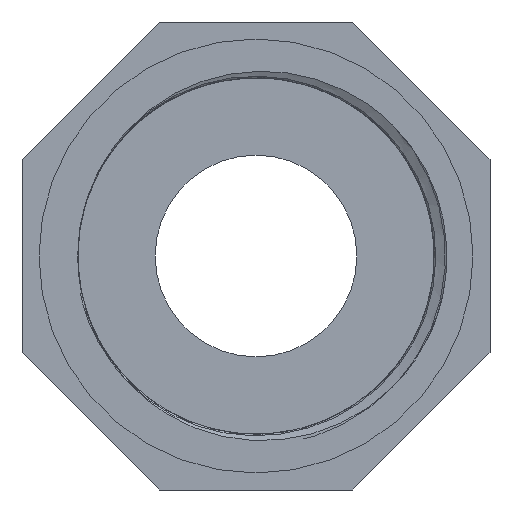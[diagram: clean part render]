
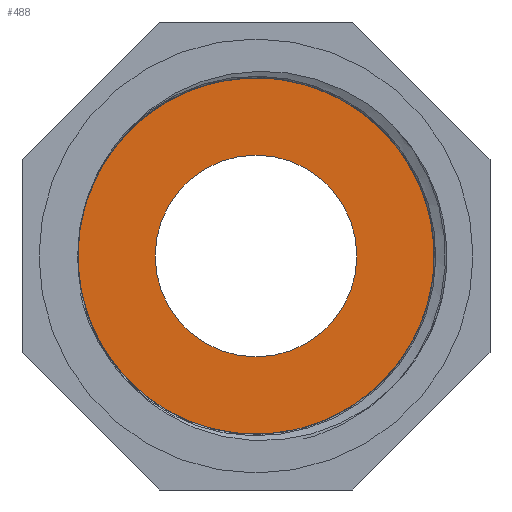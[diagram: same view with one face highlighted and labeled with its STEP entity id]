
A CAD part, front view. The second image highlights one B-rep face of the part: STEP entity #488.
In plain terms, the highlighted planar face has unit normal (0, -1, 0).
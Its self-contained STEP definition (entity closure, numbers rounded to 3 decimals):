
#18=FACE_BOUND('',#164,.T.);
#34=PLANE('',#522);
#130=FACE_OUTER_BOUND('',#163,.T.);
#163=EDGE_LOOP('',(#428,#429));
#164=EDGE_LOOP('',(#430));
#174=CIRCLE('',#498,20.955);
#175=CIRCLE('',#501,20.955);
#182=CIRCLE('',#521,11.85);
#217=VERTEX_POINT('',#4605);
#219=VERTEX_POINT('',#4629);
#249=VERTEX_POINT('',#7734);
#268=EDGE_CURVE('',#217,#219,#174,.T.);
#271=EDGE_CURVE('',#219,#217,#175,.T.);
#316=EDGE_CURVE('',#249,#249,#182,.T.);
#428=ORIENTED_EDGE('',*,*,#271,.F.);
#429=ORIENTED_EDGE('',*,*,#268,.F.);
#430=ORIENTED_EDGE('',*,*,#316,.T.);
#488=ADVANCED_FACE('',(#130,#18),#34,.T.);
#498=AXIS2_PLACEMENT_3D('',#4630,#539,#540);
#501=AXIS2_PLACEMENT_3D('',#4635,#547,#548);
#521=AXIS2_PLACEMENT_3D('',#7735,#614,#615);
#522=AXIS2_PLACEMENT_3D('',#7736,#616,#617);
#539=DIRECTION('center_axis',(0.,1.,0.));
#540=DIRECTION('ref_axis',(1.,0.,0.));
#547=DIRECTION('center_axis',(0.,1.,0.));
#548=DIRECTION('ref_axis',(1.,0.,0.));
#614=DIRECTION('center_axis',(0.,1.,0.));
#615=DIRECTION('ref_axis',(1.,0.,0.));
#616=DIRECTION('center_axis',(0.,-1.,0.));
#617=DIRECTION('ref_axis',(0.,0.,-1.));
#4605=CARTESIAN_POINT('',(1.239,24.8,-20.92));
#4629=CARTESIAN_POINT('',(-9.77,24.8,-18.538));
#4630=CARTESIAN_POINT('Origin',(0.,24.8,0.));
#4635=CARTESIAN_POINT('Origin',(0.,24.8,0.));
#7734=CARTESIAN_POINT('',(-11.85,24.8,0.));
#7735=CARTESIAN_POINT('Origin',(0.,24.8,0.));
#7736=CARTESIAN_POINT('Origin',(-20.955,24.8,0.));
